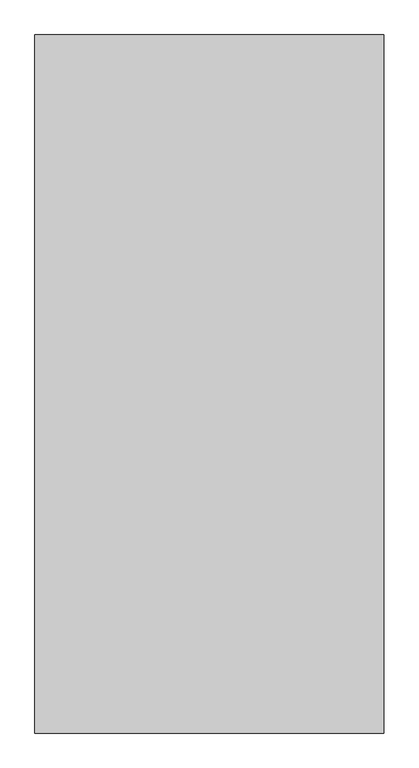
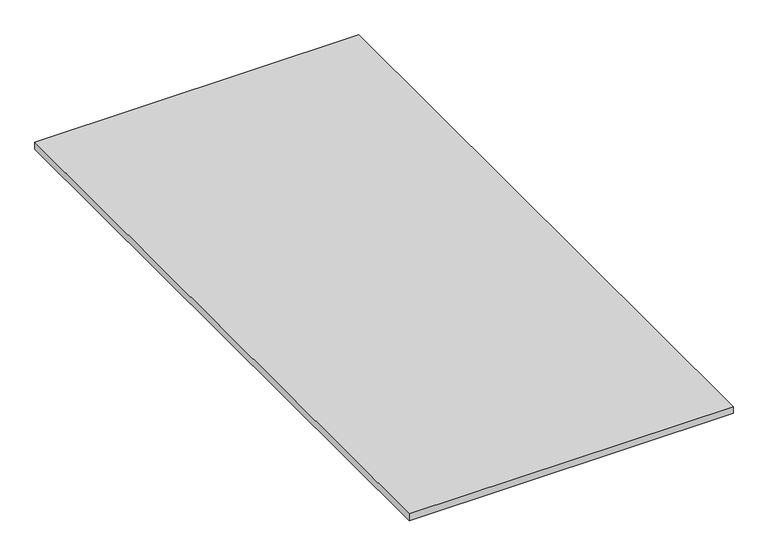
"""IFC4 building model written with IfcOpenShell, lengths in millimetres: proxy geometry, Base de duche11 : Base de duche."""

import ifcopenshell
import ifcopenshell.guid

model = None  # the IFC model being written
_history = None  # IfcOwnerHistory: only IFC2X3 demands one
_inside = {}  # id of a spatial element -> (the spatial element, [elements in it])
_under = {}  # id of a project, library or spatial element -> (it, [spatial elements below it])
_declared = {}  # id of a project -> (the project, [libraries it declares])
_typed = {}  # id of a type object -> (the type object, [elements of that type])
_made_of = {}  # id of a material, layer set ... -> (it, [elements and type objects made of it])


def new_model(schema):
    """Start an empty IFC model of exactly this schema.

    Asked for "IFC4X3", IfcOpenShell would pick the latest addendum, in which some entities
    have other attributes; the version numbers below select the first issue.
    IFC2X3 requires an IfcOwnerHistory on every rooted entity: one is made here for all.
    """
    global model, _history
    if schema == "IFC4X3":
        model = ifcopenshell.file(schema_version=(4, 3, 0, 0))
    else:
        model = ifcopenshell.file(schema=schema)
    _inside.clear()
    _under.clear()
    _declared.clear()
    _typed.clear()
    _made_of.clear()
    _history = None
    if model.schema == "IFC2X3":
        org = make("IfcOrganization", Name="unknown")
        user = make(
            "IfcPersonAndOrganization",
            ThePerson=make("IfcPerson", FamilyName="unknown"),
            TheOrganization=org,
        )
        app = make(
            "IfcApplication",
            ApplicationDeveloper=org,
            Version="unknown",
            ApplicationFullName="unknown",
            ApplicationIdentifier="unknown",
        )
        _history = make(
            "IfcOwnerHistory",
            OwningUser=user,
            OwningApplication=app,
            ChangeAction="ADDED",
            CreationDate=0,
        )
    return model


def make(cls, **values):
    """One entity of the class cls with the attributes given. An attribute that is None is left unset."""
    return model.create_entity(
        cls, **{name: value for name, value in values.items() if value is not None}
    )


def rooted(cls, **values):
    """An entity with a GlobalId (a new one), such as an element, a storey or a relation."""
    return make(cls, GlobalId=ifcopenshell.guid.new(), OwnerHistory=_history, **values)


def si_unit(unit_type, name, prefix=None):
    """IfcSIUnit, for example si_unit("LENGTHUNIT", "METRE", prefix="MILLI")."""
    return make("IfcSIUnit", UnitType=unit_type, Prefix=prefix, Name=name)


def assignment(units):
    """IfcUnitAssignment: the units of a project."""
    return None if units is None else make("IfcUnitAssignment", Units=units)


def point(xyz):
    """IfcCartesianPoint."""
    return None if xyz is None else make("IfcCartesianPoint", Coordinates=xyz)


def direction(xyz):
    """IfcDirection."""
    return None if xyz is None else make("IfcDirection", DirectionRatios=xyz)


def frame(location, z_axis=None, x_axis=None):
    """IfcAxis2Placement3D, a coordinate frame: its origin and axes. An axis left out is left unset."""
    return make(
        "IfcAxis2Placement3D",
        Location=point(location),
        Axis=direction(z_axis),
        RefDirection=direction(x_axis),
    )


def origin():
    """The frame at (0, 0, 0) with its axes left unset."""
    return frame((0.0, 0.0, 0.0))


def origin_with_axes():
    """The frame at (0, 0, 0) with the z axis (0, 0, 1) and the x axis (1, 0, 0) written out."""
    return frame((0.0, 0.0, 0.0), z_axis=(0.0, 0.0, 1.0), x_axis=(1.0, 0.0, 0.0))


def place(relative_to, where):
    """IfcLocalPlacement: puts the frame where relative to a parent placement (None: the world)."""
    return make(
        "IfcLocalPlacement", PlacementRelTo=relative_to, RelativePlacement=where
    )


def context(
    kind, dimensions, precision=None, world=None, true_north=None, identifier=None
):
    """IfcGeometricRepresentationContext, for example the 3D "Model" context."""
    return make(
        "IfcGeometricRepresentationContext",
        ContextIdentifier=identifier,
        ContextType=kind,
        CoordinateSpaceDimension=dimensions,
        Precision=precision,
        WorldCoordinateSystem=world,
        TrueNorth=true_north,
    )


def project(units=None, contexts=None):
    """IfcProject with its units and contexts."""
    return rooted(
        "IfcProject",
        Name="project",
        RepresentationContexts=contexts,
        UnitsInContext=assignment(units),
    )


def spatial(cls, under=None, at=None, **own):
    """A site, building, storey or space (cls), placed at a placement, below another one or the project."""
    s = rooted(cls, ObjectPlacement=at, **own)
    if under is not None:
        _under.setdefault(under.id(), (under, []))[1].append(s)
    return s


def polyline(points):
    """IfcPolyline through the points."""
    return make("IfcPolyline", Points=[point(p) for p in points])


def outline(outer, holes=None, kind="AREA"):
    """IfcArbitraryClosedProfileDef: a profile drawn as a closed curve; with holes, ...WithVoids."""
    if holes is None:
        return make("IfcArbitraryClosedProfileDef", ProfileType=kind, OuterCurve=outer)
    return make(
        "IfcArbitraryProfileDefWithVoids",
        ProfileType=kind,
        OuterCurve=outer,
        InnerCurves=holes,
    )


def extrude(swept, where, along, depth):
    """IfcExtrudedAreaSolid: the profile swept, set in the frame where, extruded along a direction by depth."""
    return make(
        "IfcExtrudedAreaSolid",
        SweptArea=swept,
        Position=where,
        ExtrudedDirection=direction(along),
        Depth=depth,
    )


def shape(context_of_items, identifier, shape_type, items):
    """IfcShapeRepresentation: the items that make up one representation, for example the "Body"."""
    return make(
        "IfcShapeRepresentation",
        ContextOfItems=context_of_items,
        RepresentationIdentifier=identifier,
        RepresentationType=shape_type,
        Items=items,
    )


def source(mapping_origin, context_of_items, identifier, shape_type, items):
    """IfcRepresentationMap: a shape defined once, which mapped items show again and again."""
    return make(
        "IfcRepresentationMap",
        MappingOrigin=mapping_origin,
        MappedRepresentation=shape(context_of_items, identifier, shape_type, items),
    )


def transform(
    local_origin,
    x_axis=None,
    y_axis=None,
    z_axis=None,
    scale=None,
    scale2=None,
    scale3=None,
    uniform=True,
):
    """IfcCartesianTransformationOperator3D, or its non-uniform kind. x_axis, y_axis, z_axis: its Axis1, 2, 3."""
    if uniform:
        return make(
            "IfcCartesianTransformationOperator3D",
            Axis1=direction(x_axis),
            Axis2=direction(y_axis),
            LocalOrigin=point(local_origin),
            Scale=scale,
            Axis3=direction(z_axis),
        )
    return make(
        "IfcCartesianTransformationOperator3DnonUniform",
        Axis1=direction(x_axis),
        Axis2=direction(y_axis),
        LocalOrigin=point(local_origin),
        Scale=scale,
        Axis3=direction(z_axis),
        Scale2=scale2,
        Scale3=scale3,
    )


def mapped(mapping_source, mapping_target):
    """IfcMappedItem: shows the shape of a source again, moved by a transform."""
    return make(
        "IfcMappedItem", MappingSource=mapping_source, MappingTarget=mapping_target
    )


def made_of(thing, what):
    """Note that an element or type object is made of a material, layer set ...; save() writes the relation."""
    if what is not None:
        _made_of.setdefault(what.id(), (what, []))[1].append(thing)
    return thing


def element(
    cls,
    number,
    at=None,
    inside=None,
    cuts=None,
    type_object=None,
    material=None,
    context=None,
    identifier="Body",
    shape_type=None,
    held_by="IfcProductDefinitionShape",
    body=None,
    shapes=None,
    **own,
):
    """One element of the class cls, such as IfcWall. Its Tag is "e" and its number.

    at: its placement. inside: the storey or other place that contains it. cuts: it is an
    opening in that element (IfcRelVoidsElement). A single representation is given by context,
    identifier, shape_type and body (its items); several are given by shapes. held_by: the class
    of the entity that holds the representations. save() writes the other relations.
    """
    e = rooted(cls, Tag="e%d" % number, ObjectPlacement=at, **own)
    if body is not None:
        shapes = [shape(context, identifier, shape_type, body)]
    if shapes is not None:
        e.Representation = make(held_by, Representations=shapes)
    if inside is not None:
        _inside.setdefault(inside.id(), (inside, []))[1].append(e)
    if cuts is not None:
        rooted(
            "IfcRelVoidsElement", RelatingBuildingElement=cuts, RelatedOpeningElement=e
        )
    if type_object is not None:
        _typed.setdefault(type_object.id(), (type_object, []))[1].append(e)
    return made_of(e, material)


def aggregate(whole, parts):
    """IfcRelAggregates: a whole, such as a stair, and the parts it consists of."""
    return rooted("IfcRelAggregates", RelatingObject=whole, RelatedObjects=parts)


def save(model, path):
    """Write the relations noted so far, then the file.

    IfcRelAggregates (storeys below a building ...), IfcRelContainedInSpatialStructure (elements
    in a storey), IfcRelDefinesByType, IfcRelAssociatesMaterial and IfcRelDeclares: one each for
    every whole, place, type object, material and project.
    """
    for whole, parts in _under.values():
        aggregate(whole, parts)
    for where, things in _inside.values():
        rooted(
            "IfcRelContainedInSpatialStructure",
            RelatedElements=things,
            RelatingStructure=where,
        )
    for kind, things in _typed.values():
        rooted("IfcRelDefinesByType", RelatedObjects=things, RelatingType=kind)
    for what, things in _made_of.values():
        rooted("IfcRelAssociatesMaterial", RelatedObjects=things, RelatingMaterial=what)
    for by, libraries in _declared.values():
        rooted("IfcRelDeclares", RelatingContext=by, RelatedDefinitions=libraries)
    model.write(path)


def generic_models_76f1f4b3(model_context):
    return source(origin(), model_context, "Body", "SweptSolid", [
        extrude(outline(polyline([(18621.7572882, 22026.5765577), (18621.7572882, 20226.5765577), (17721.7572882, 20226.5765577), (17721.7572882, 22026.5765577), (18621.7572882, 22026.5765577)])), origin_with_axes(), (0.0, 0.0, 1.0), 20.0),
    ])


if __name__ == "__main__":
    model = new_model("IFC4")
    model_context = context("Model", 3, world=origin())
    ifc_project = project(units=[si_unit("LENGTHUNIT", "METRE", prefix="MILLI")], contexts=[model_context])
    site = spatial("IfcSite", under=ifc_project)
    building = spatial("IfcBuilding", under=site)
    placement = place(None, origin())
    generic_models_shape = generic_models_76f1f4b3(model_context)
    element("IfcBuildingElementProxy", 1, Name="Base de duche11 : Base de duche", ObjectType="Base de duche11 : Base de duche", at=placement, inside=building, context=model_context, shape_type="MappedRepresentation", body=[
        mapped(generic_models_shape, transform((0.0, 0.0, 0.0), x_axis=(1.0, 0.0, 0.0), y_axis=(0.0, 1.0, 0.0), z_axis=(0.0, 0.0, 1.0))),
    ])
    save(model, "model.ifc")
